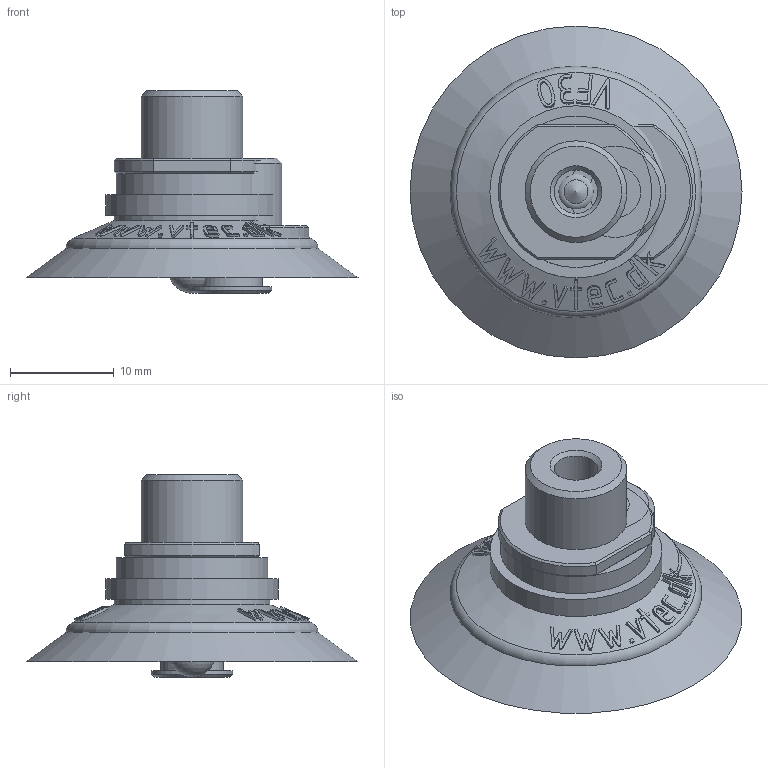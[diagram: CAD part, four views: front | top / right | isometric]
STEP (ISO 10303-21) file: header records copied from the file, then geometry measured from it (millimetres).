
FILE_DESCRIPTION( ( 'Unknown' ), '1' );
FILE_NAME( 'C:/Documents and Settings/owner/官帕 拳搁/MISUMI/PAD/VF/VF30-N-M518MF-BV.stp', 'Unknown', ( 'Unknown' ), ( 'Unknown' ), 'XStep 1.0', 'Unknown', ' ' );
FILE_SCHEMA( ( 'automotive_design' ) );
Length unit declared in the file: millimetre
Products named in the file (4): Assem1; 1_3; 2_2; VF20 25 30 BV
Bounding box: 32 x 32 x 19.5 mm (x, y, z)
Volume: 6059.5 mm3; surface area: 7027 mm2
Topology: 6 solids, 6 shells, 486 faces, 1164 edges, 766 vertices
Faces by surface type: plane 222, bspline 112, cone 66, cylinder 52, extrusion 28, torus 4, sphere 2
Full cylindrical faces by diameter (mm): 2.3 x2, 3.6 x2, 4.2 x2, 4.6 x2, 5 x4, 6 x6, 6.4 x2, 7 x2, 7.9 x2, 9.8 x2, 14.6 x2, 15 x2, 16.6 x2
Entity records: 11614 total; most frequent: CARTESIAN_POINT 6743, ORIENTED_EDGE 1074, DIRECTION 652, EDGE_CURVE 537, VERTEX_POINT 373, B_SPLINE_CURVE_WITH_KNOTS 348, EDGE_LOOP 319, FACE_OUTER_BOUND 264
